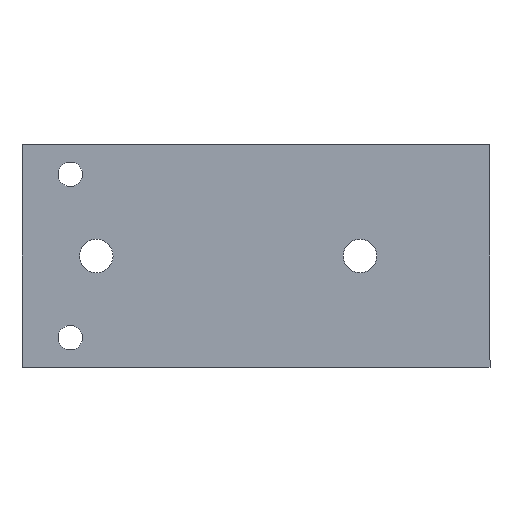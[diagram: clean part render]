
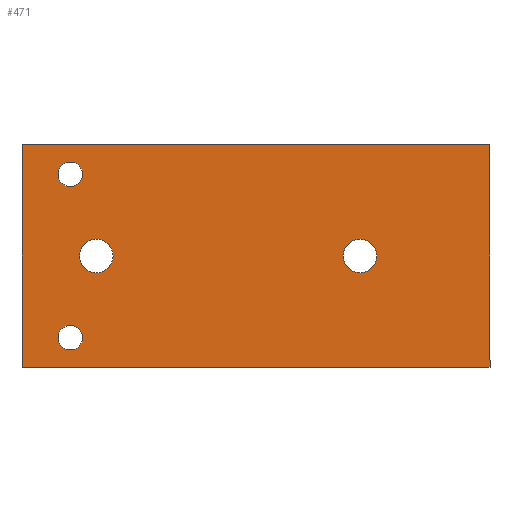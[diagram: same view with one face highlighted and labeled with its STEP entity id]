
A CAD part, front view. The second image highlights one B-rep face of the part: STEP entity #471.
In plain terms, the highlighted planar face has unit normal (0, -1, 0).
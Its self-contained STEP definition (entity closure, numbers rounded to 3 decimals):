
#5 = ORIENTED_EDGE ( 'NONE', *, *, #622, .T. ) ;
#13 = ORIENTED_EDGE ( 'NONE', *, *, #558, .T. ) ;
#30 = ORIENTED_EDGE ( 'NONE', *, *, #559, .F. ) ;
#31 = ORIENTED_EDGE ( 'NONE', *, *, #564, .F. ) ;
#32 = ORIENTED_EDGE ( 'NONE', *, *, #611, .F. ) ;
#33 = ORIENTED_EDGE ( 'NONE', *, *, #552, .F. ) ;
#40 = ORIENTED_EDGE ( 'NONE', *, *, #561, .F. ) ;
#43 = ORIENTED_EDGE ( 'NONE', *, *, #560, .F. ) ;
#57 = CIRCLE ( 'NONE', #570, 1.65 ) ;
#58 = CIRCLE ( 'NONE', #557, 2.25 ) ;
#69 = CIRCLE ( 'NONE', #551, 2.25 ) ;
#79 = VERTEX_POINT ( 'NONE', #205 ) ;
#80 = VERTEX_POINT ( 'NONE', #175 ) ;
#81 = ORIENTED_EDGE ( 'NONE', *, *, #563, .F. ) ;
#92 = ORIENTED_EDGE ( 'NONE', *, *, #566, .F. ) ;
#104 = DIRECTION ( 'NONE',  ( 0., 0., -1. ) ) ;
#107 = DIRECTION ( 'NONE',  ( 0., -1., 0. ) ) ;
#111 = CARTESIAN_POINT ( 'NONE',  ( 6.5, 0., -26. ) ) ;
#118 = CARTESIAN_POINT ( 'NONE',  ( 6.5, 0., -27.65 ) ) ;
#124 = DIRECTION ( 'NONE',  ( 0., 0., 1. ) ) ;
#125 = DIRECTION ( 'NONE',  ( 0., 1., 0. ) ) ;
#126 = CARTESIAN_POINT ( 'NONE',  ( 10., 0., -15. ) ) ;
#129 = DIRECTION ( 'NONE',  ( 0., 0., -1. ) ) ;
#130 = DIRECTION ( 'NONE',  ( 0., -1., 0. ) ) ;
#131 = CARTESIAN_POINT ( 'NONE',  ( 6.5, 0., -4. ) ) ;
#132 = DIRECTION ( 'NONE',  ( 0., 0., -1. ) ) ;
#134 = DIRECTION ( 'NONE',  ( 0., -1., 0. ) ) ;
#135 = CARTESIAN_POINT ( 'NONE',  ( 6.5, 0., -26. ) ) ;
#138 = DIRECTION ( 'NONE',  ( 1., 0., 0. ) ) ;
#141 = DIRECTION ( 'NONE',  ( 0., 0., -1. ) ) ;
#142 = DIRECTION ( 'NONE',  ( -1., 0., 0. ) ) ;
#143 = CARTESIAN_POINT ( 'NONE',  ( 0., 0., 0. ) ) ;
#146 = DIRECTION ( 'NONE',  ( 0., 0., 1. ) ) ;
#147 = DIRECTION ( 'NONE',  ( 0., 1., 0. ) ) ;
#148 = CARTESIAN_POINT ( 'NONE',  ( 45.5, 0., -15. ) ) ;
#149 = CARTESIAN_POINT ( 'NONE',  ( 0., 0., 0. ) ) ;
#150 = CARTESIAN_POINT ( 'NONE',  ( 0., 0., -30. ) ) ;
#151 = CARTESIAN_POINT ( 'NONE',  ( 63., 0., 0. ) ) ;
#152 = DIRECTION ( 'NONE',  ( 0., 0., 1. ) ) ;
#175 = CARTESIAN_POINT ( 'NONE',  ( 45.5, 0., -17.25 ) ) ;
#203 = CARTESIAN_POINT ( 'NONE',  ( 6.5, 0., -24.35 ) ) ;
#205 = CARTESIAN_POINT ( 'NONE',  ( 6.5, 0., -2.35 ) ) ;
#212 = DIRECTION ( 'NONE',  ( 0., 0., -1. ) ) ;
#215 = PLANE ( 'NONE',  #617 ) ;
#219 = CARTESIAN_POINT ( 'NONE',  ( 0., 0., -30. ) ) ;
#220 = DIRECTION ( 'NONE',  ( 0., -1., 0. ) ) ;
#222 = CARTESIAN_POINT ( 'NONE',  ( 10., 0., -12.75 ) ) ;
#223 = CARTESIAN_POINT ( 'NONE',  ( 6.5, 0., -5.65 ) ) ;
#225 = CARTESIAN_POINT ( 'NONE',  ( 0., 0., -30. ) ) ;
#227 = CARTESIAN_POINT ( 'NONE',  ( 63., 0., -30. ) ) ;
#228 = CARTESIAN_POINT ( 'NONE',  ( 45.5, 0., -12.75 ) ) ;
#229 = CARTESIAN_POINT ( 'NONE',  ( 63., 0., 0. ) ) ;
#233 = CARTESIAN_POINT ( 'NONE',  ( 0., 0., 0. ) ) ;
#235 = CARTESIAN_POINT ( 'NONE',  ( 10., 0., -17.25 ) ) ;
#238 = VECTOR ( 'NONE', #142, 1000. ) ;
#239 = CIRCLE ( 'NONE', #593, 1.65 ) ;
#240 = LINE ( 'NONE', #151, #241 ) ;
#241 = VECTOR ( 'NONE', #141, 1000. ) ;
#242 = CIRCLE ( 'NONE', #590, 2.25 ) ;
#243 = LINE ( 'NONE', #143, #244 ) ;
#244 = VECTOR ( 'NONE', #138, 1000. ) ;
#245 = CIRCLE ( 'NONE', #592, 1.65 ) ;
#276 = EDGE_LOOP ( 'NONE', ( #32, #92 ) ) ;
#333 = VERTEX_POINT ( 'NONE', #118 ) ;
#334 = VERTEX_POINT ( 'NONE', #203 ) ;
#339 = VERTEX_POINT ( 'NONE', #235 ) ;
#341 = VERTEX_POINT ( 'NONE', #233 ) ;
#347 = DIRECTION ( 'NONE',  ( 0., 1., 0. ) ) ;
#362 = CARTESIAN_POINT ( 'NONE',  ( 45.5, 0., -15. ) ) ;
#370 = DIRECTION ( 'NONE',  ( 0., 0., -1. ) ) ;
#373 = DIRECTION ( 'NONE',  ( 0., 0., 1. ) ) ;
#378 = DIRECTION ( 'NONE',  ( 0., -1., 0. ) ) ;
#379 = CARTESIAN_POINT ( 'NONE',  ( 6.5, 0., -4. ) ) ;
#385 = DIRECTION ( 'NONE',  ( 0., 0., 1. ) ) ;
#387 = DIRECTION ( 'NONE',  ( 0., 1., 0. ) ) ;
#392 = CARTESIAN_POINT ( 'NONE',  ( 10., 0., -15. ) ) ;
#431 = ORIENTED_EDGE ( 'NONE', *, *, #627, .T. ) ;
#436 = ORIENTED_EDGE ( 'NONE', *, *, #567, .T. ) ;
#437 = FACE_BOUND ( 'NONE', #276, .T. ) ;
#438 = FACE_BOUND ( 'NONE', #467, .T. ) ;
#439 = FACE_OUTER_BOUND ( 'NONE', #454, .T. ) ;
#441 = FACE_BOUND ( 'NONE', #450, .T. ) ;
#446 = FACE_BOUND ( 'NONE', #488, .T. ) ;
#450 = EDGE_LOOP ( 'NONE', ( #13, #5 ) ) ;
#454 = EDGE_LOOP ( 'NONE', ( #30, #43, #40, #81 ) ) ;
#459 = VERTEX_POINT ( 'NONE', #227 ) ;
#460 = VERTEX_POINT ( 'NONE', #225 ) ;
#463 = VERTEX_POINT ( 'NONE', #223 ) ;
#464 = VERTEX_POINT ( 'NONE', #229 ) ;
#465 = VERTEX_POINT ( 'NONE', #222 ) ;
#466 = VERTEX_POINT ( 'NONE', #228 ) ;
#467 = EDGE_LOOP ( 'NONE', ( #33, #31 ) ) ;
#471 = ADVANCED_FACE ( 'NONE', ( #441, #439, #438, #437, #446 ), #215, .T. ) ;
#488 = EDGE_LOOP ( 'NONE', ( #436, #431 ) ) ;
#511 = CIRCLE ( 'NONE', #594, 2.25 ) ;
#515 = CIRCLE ( 'NONE', #601, 1.65 ) ;
#519 = LINE ( 'NONE', #149, #523 ) ;
#521 = LINE ( 'NONE', #150, #238 ) ;
#523 = VECTOR ( 'NONE', #152, 1000. ) ;
#551 = AXIS2_PLACEMENT_3D ( 'NONE', #392, #387, #385 ) ;
#552 = EDGE_CURVE ( 'NONE', #334, #333, #515, .T. ) ;
#557 = AXIS2_PLACEMENT_3D ( 'NONE', #362, #347, #373 ) ;
#558 = EDGE_CURVE ( 'NONE', #466, #80, #511, .T. ) ;
#559 = EDGE_CURVE ( 'NONE', #460, #341, #519, .T. ) ;
#560 = EDGE_CURVE ( 'NONE', #459, #460, #521, .T. ) ;
#561 = EDGE_CURVE ( 'NONE', #464, #459, #240, .T. ) ;
#563 = EDGE_CURVE ( 'NONE', #341, #464, #243, .T. ) ;
#564 = EDGE_CURVE ( 'NONE', #333, #334, #239, .T. ) ;
#566 = EDGE_CURVE ( 'NONE', #463, #79, #245, .T. ) ;
#567 = EDGE_CURVE ( 'NONE', #465, #339, #242, .T. ) ;
#570 = AXIS2_PLACEMENT_3D ( 'NONE', #379, #378, #370 ) ;
#590 = AXIS2_PLACEMENT_3D ( 'NONE', #126, #125, #124 ) ;
#592 = AXIS2_PLACEMENT_3D ( 'NONE', #131, #130, #129 ) ;
#593 = AXIS2_PLACEMENT_3D ( 'NONE', #135, #134, #132 ) ;
#594 = AXIS2_PLACEMENT_3D ( 'NONE', #148, #147, #146 ) ;
#601 = AXIS2_PLACEMENT_3D ( 'NONE', #111, #107, #104 ) ;
#611 = EDGE_CURVE ( 'NONE', #79, #463, #57, .T. ) ;
#617 = AXIS2_PLACEMENT_3D ( 'NONE', #219, #220, #212 ) ;
#622 = EDGE_CURVE ( 'NONE', #80, #466, #58, .T. ) ;
#627 = EDGE_CURVE ( 'NONE', #339, #465, #69, .T. ) ;
